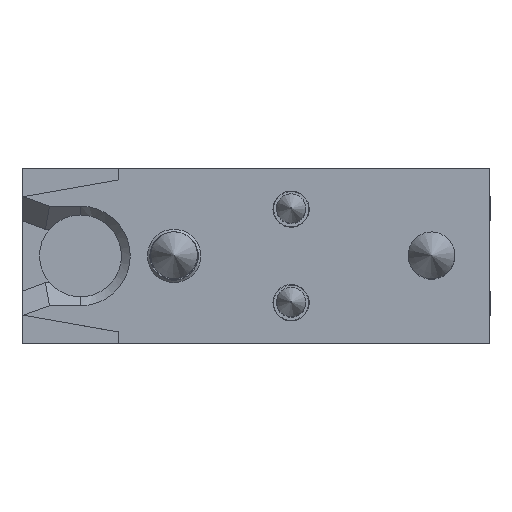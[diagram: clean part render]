
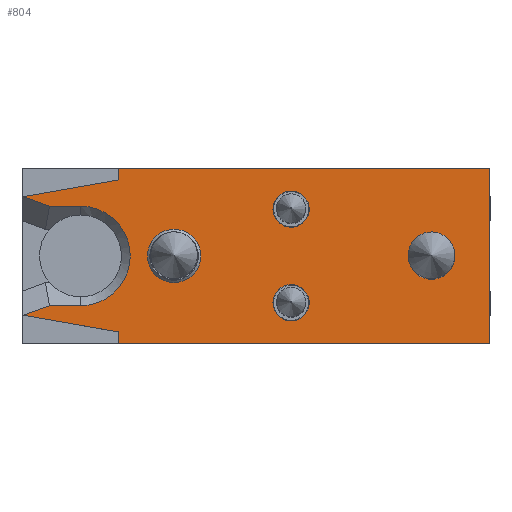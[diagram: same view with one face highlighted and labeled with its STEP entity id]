
A CAD part, top view. The second image highlights one B-rep face of the part: STEP entity #804.
In plain terms, the highlighted planar face has unit normal (0, 0, 1) as drawn and (0, 0, -1) by its records, which use the part's own axes.
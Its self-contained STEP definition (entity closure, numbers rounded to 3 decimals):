
#99=CIRCLE('',#923,3.1);
#100=CIRCLE('',#924,3.1);
#101=CIRCLE('',#925,4.55);
#102=CIRCLE('',#926,4.);
#103=CIRCLE('',#927,8.5);
#143=ORIENTED_EDGE('',*,*,#323,.T.);
#144=ORIENTED_EDGE('',*,*,#324,.T.);
#145=ORIENTED_EDGE('',*,*,#325,.T.);
#146=ORIENTED_EDGE('',*,*,#326,.T.);
#147=ORIENTED_EDGE('',*,*,#327,.F.);
#148=ORIENTED_EDGE('',*,*,#328,.T.);
#149=ORIENTED_EDGE('',*,*,#329,.T.);
#150=ORIENTED_EDGE('',*,*,#330,.T.);
#151=ORIENTED_EDGE('',*,*,#331,.T.);
#152=ORIENTED_EDGE('',*,*,#332,.T.);
#153=ORIENTED_EDGE('',*,*,#333,.T.);
#154=ORIENTED_EDGE('',*,*,#334,.T.);
#155=ORIENTED_EDGE('',*,*,#335,.F.);
#156=ORIENTED_EDGE('',*,*,#336,.F.);
#157=ORIENTED_EDGE('',*,*,#337,.F.);
#158=ORIENTED_EDGE('',*,*,#338,.F.);
#323=EDGE_CURVE('',#413,#413,#99,.T.);
#324=EDGE_CURVE('',#414,#414,#100,.T.);
#325=EDGE_CURVE('',#415,#415,#101,.T.);
#326=EDGE_CURVE('',#416,#416,#102,.T.);
#327=EDGE_CURVE('',#417,#418,#486,.T.);
#328=EDGE_CURVE('',#417,#419,#487,.T.);
#329=EDGE_CURVE('',#419,#420,#488,.T.);
#330=EDGE_CURVE('',#420,#421,#489,.T.);
#331=EDGE_CURVE('',#421,#422,#490,.T.);
#332=EDGE_CURVE('',#422,#423,#103,.T.);
#333=EDGE_CURVE('',#423,#424,#491,.T.);
#334=EDGE_CURVE('',#424,#425,#492,.T.);
#335=EDGE_CURVE('',#426,#425,#493,.T.);
#336=EDGE_CURVE('',#427,#426,#494,.T.);
#337=EDGE_CURVE('',#428,#427,#495,.T.);
#338=EDGE_CURVE('',#418,#428,#496,.T.);
#413=VERTEX_POINT('',#1309);
#414=VERTEX_POINT('',#1311);
#415=VERTEX_POINT('',#1313);
#416=VERTEX_POINT('',#1315);
#417=VERTEX_POINT('',#1317);
#418=VERTEX_POINT('',#1318);
#419=VERTEX_POINT('',#1320);
#420=VERTEX_POINT('',#1322);
#421=VERTEX_POINT('',#1324);
#422=VERTEX_POINT('',#1326);
#423=VERTEX_POINT('',#1328);
#424=VERTEX_POINT('',#1330);
#425=VERTEX_POINT('',#1332);
#426=VERTEX_POINT('',#1334);
#427=VERTEX_POINT('',#1336);
#428=VERTEX_POINT('',#1338);
#486=LINE('',#1316,#536);
#487=LINE('',#1319,#537);
#488=LINE('',#1321,#538);
#489=LINE('',#1323,#539);
#490=LINE('',#1325,#540);
#491=LINE('',#1329,#541);
#492=LINE('',#1331,#542);
#493=LINE('',#1333,#543);
#494=LINE('',#1335,#544);
#495=LINE('',#1337,#545);
#496=LINE('',#1339,#546);
#536=VECTOR('',#1047,1000.);
#537=VECTOR('',#1048,1000.);
#538=VECTOR('',#1049,1000.);
#539=VECTOR('',#1050,1000.);
#540=VECTOR('',#1051,1000.);
#541=VECTOR('',#1054,1000.);
#542=VECTOR('',#1055,1000.);
#543=VECTOR('',#1056,1000.);
#544=VECTOR('',#1057,1000.);
#545=VECTOR('',#1058,1000.);
#546=VECTOR('',#1059,1000.);
#583=EDGE_LOOP('',(#143));
#584=EDGE_LOOP('',(#144));
#585=EDGE_LOOP('',(#145));
#586=EDGE_LOOP('',(#146));
#587=EDGE_LOOP('',(#147,#148,#149,#150,#151,#152,#153,#154,#155,#156,#157,
#158));
#678=FACE_BOUND('',#583,.T.);
#679=FACE_BOUND('',#584,.T.);
#680=FACE_BOUND('',#585,.T.);
#681=FACE_BOUND('',#586,.T.);
#682=FACE_BOUND('',#587,.T.);
#775=PLANE('',#922);
#804=ADVANCED_FACE('',(#678,#679,#680,#681,#682),#775,.F.);
#922=AXIS2_PLACEMENT_3D('',#1307,#1037,#1038);
#923=AXIS2_PLACEMENT_3D('',#1308,#1039,#1040);
#924=AXIS2_PLACEMENT_3D('',#1310,#1041,#1042);
#925=AXIS2_PLACEMENT_3D('',#1312,#1043,#1044);
#926=AXIS2_PLACEMENT_3D('',#1314,#1045,#1046);
#927=AXIS2_PLACEMENT_3D('',#1327,#1052,#1053);
#1037=DIRECTION('',(0.,0.,1.));
#1038=DIRECTION('',(1.,0.,0.));
#1039=DIRECTION('',(0.,0.,1.));
#1040=DIRECTION('',(1.,0.,0.));
#1041=DIRECTION('',(0.,0.,1.));
#1042=DIRECTION('',(1.,0.,0.));
#1043=DIRECTION('',(0.,0.,1.));
#1044=DIRECTION('',(1.,0.,0.));
#1045=DIRECTION('',(0.,0.,1.));
#1046=DIRECTION('',(1.,0.,0.));
#1047=DIRECTION('',(-1.,0.,0.));
#1048=DIRECTION('',(0.,-1.,0.));
#1049=DIRECTION('',(0.985,-0.174,0.));
#1050=DIRECTION('',(-0.94,-0.342,0.));
#1051=DIRECTION('',(-1.,0.,0.));
#1052=DIRECTION('',(0.,0.,1.));
#1053=DIRECTION('',(1.,0.,0.));
#1054=DIRECTION('',(1.,0.,0.));
#1055=DIRECTION('',(0.94,-0.342,0.));
#1056=DIRECTION('',(0.985,0.174,0.));
#1057=DIRECTION('',(0.,1.,0.));
#1058=DIRECTION('',(1.,0.,0.));
#1059=DIRECTION('',(0.,-1.,0.));
#1307=CARTESIAN_POINT('',(-40.,15.,-5.));
#1308=CARTESIAN_POINT('',(-6.,8.,-5.));
#1309=CARTESIAN_POINT('',(-2.9,8.,-5.));
#1310=CARTESIAN_POINT('',(-6.,-8.,-5.));
#1311=CARTESIAN_POINT('',(-2.9,-8.,-5.));
#1312=CARTESIAN_POINT('',(14.,0.,-5.));
#1313=CARTESIAN_POINT('',(18.55,0.,-5.));
#1314=CARTESIAN_POINT('',(-30.,0.,-5.));
#1315=CARTESIAN_POINT('',(-26.,0.,-5.));
#1316=CARTESIAN_POINT('',(40.,15.,-5.));
#1317=CARTESIAN_POINT('',(23.5,15.,-5.));
#1318=CARTESIAN_POINT('',(-40.,15.,-5.));
#1319=CARTESIAN_POINT('',(23.5,15.,-5.));
#1320=CARTESIAN_POINT('',(23.5,13.,-5.));
#1321=CARTESIAN_POINT('',(-38.427,23.919,-5.));
#1322=CARTESIAN_POINT('',(39.78,10.129,-5.));
#1323=CARTESIAN_POINT('',(34.649,8.262,-5.));
#1324=CARTESIAN_POINT('',(35.304,8.5,-5.));
#1325=CARTESIAN_POINT('',(30.,8.5,-5.));
#1326=CARTESIAN_POINT('',(30.,8.5,-5.));
#1327=CARTESIAN_POINT('',(30.,0.,-5.));
#1328=CARTESIAN_POINT('',(30.,-8.5,-5.));
#1329=CARTESIAN_POINT('',(36.,-8.5,-5.));
#1330=CARTESIAN_POINT('',(35.304,-8.5,-5.));
#1331=CARTESIAN_POINT('',(38.649,-9.718,-5.));
#1332=CARTESIAN_POINT('',(39.78,-10.129,-5.));
#1333=CARTESIAN_POINT('',(-33.297,-23.015,-5.));
#1334=CARTESIAN_POINT('',(23.5,-13.,-5.));
#1335=CARTESIAN_POINT('',(23.5,15.,-5.));
#1336=CARTESIAN_POINT('',(23.5,-15.,-5.));
#1337=CARTESIAN_POINT('',(-40.,-15.,-5.));
#1338=CARTESIAN_POINT('',(-40.,-15.,-5.));
#1339=CARTESIAN_POINT('',(-40.,15.,-5.));
